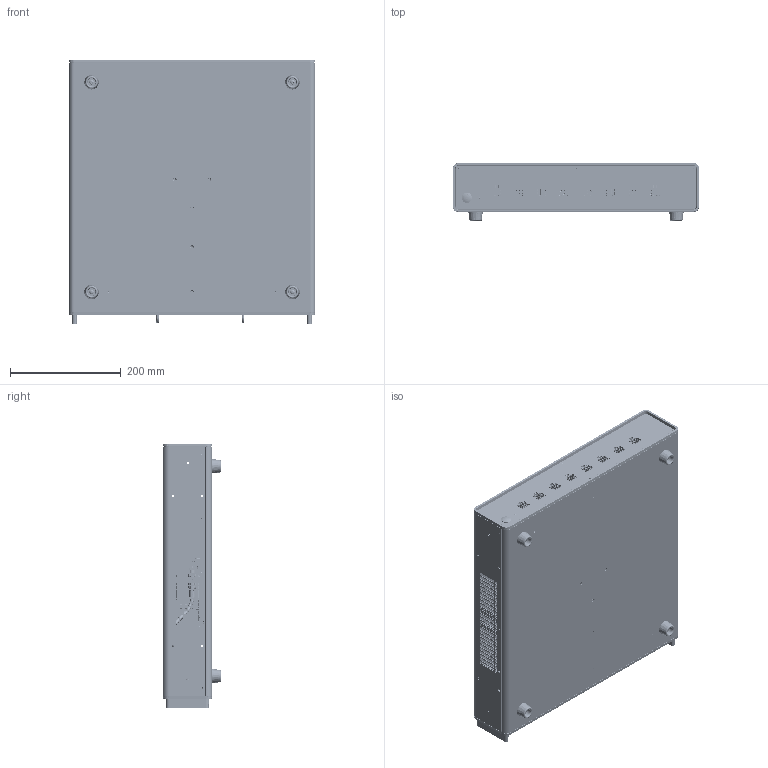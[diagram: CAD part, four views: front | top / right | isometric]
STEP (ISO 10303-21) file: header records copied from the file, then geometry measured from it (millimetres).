
FILE_DESCRIPTION((''),'2;1');
FILE_NAME('CU_APS-4159','2023-10-23T14:04:20',('jbuhisan'),(''),'CREO PARAMETRIC BY PTC INC, 2021063','CREO PARAMETRIC BY PTC INC, 2021063','');
FILE_SCHEMA(('AUTOMOTIVE_DESIGN { 1 0 10303 214 1 1 1 1 }'));
Length unit declared in the file: millimetre
Products named in the file (1): CU_APS-4159
Bounding box: 444 x 103.87 x 477.5 mm (x, y, z)
Volume: 2612032.6 mm3; surface area: 2640548.4 mm2
Topology: 5 solids, 9 shells, 21042 faces, 56443 edges, 36028 vertices
Faces by surface type: plane 12308, cylinder 6349, cone 1498, torus 466, bspline 263, sphere 110, extrusion 48
Entity records: 863749 total; most frequent: CARTESIAN_POINT 216593, ORIENTED_EDGE 112610, DIRECTION 107098, EDGE_CURVE 56305, VECTOR 37695, LINE 37647, VERTEX_POINT 36028, AXIS2_PLACEMENT_3D 34700
